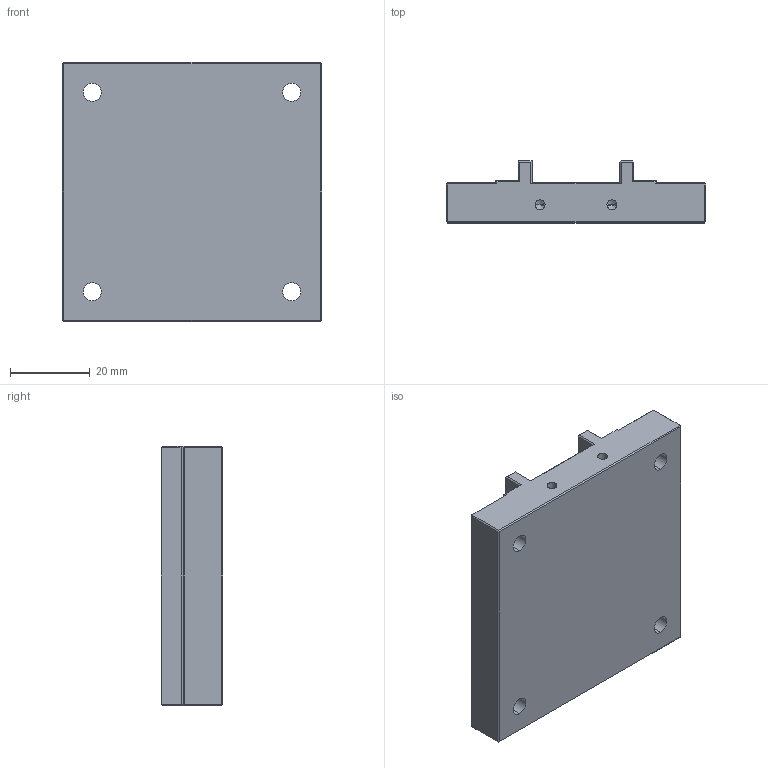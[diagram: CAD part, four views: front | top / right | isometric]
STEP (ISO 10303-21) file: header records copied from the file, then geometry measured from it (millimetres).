
FILE_DESCRIPTION (( 'STEP AP214' ), '1' );
FILE_NAME ('錨璃1.STEP', '2026-03-13T03:49:18', ( '' ), ( '' ), 'SwSTEP 2.0', 'SolidWorks 2024', '' );
FILE_SCHEMA (( 'AUTOMOTIVE_DESIGN' ));
Length unit declared in the file: millimetre
Products named in the file (1): 零件1
Bounding box: 65 x 15.5 x 65 mm (x, y, z)
Volume: 43522.8 mm3; surface area: 13613.4 mm2
Topology: 1 solids, 1 shells, 136 faces, 310 edges, 168 vertices
Faces by surface type: plane 72, cylinder 40, cone 24
Entity records: 3585 total; most frequent: DIRECTION 640, CARTESIAN_POINT 591, ORIENTED_EDGE 572, EDGE_CURVE 286, AXIS2_PLACEMENT_3D 217, LINE 206, VECTOR 206, VERTEX_POINT 168
